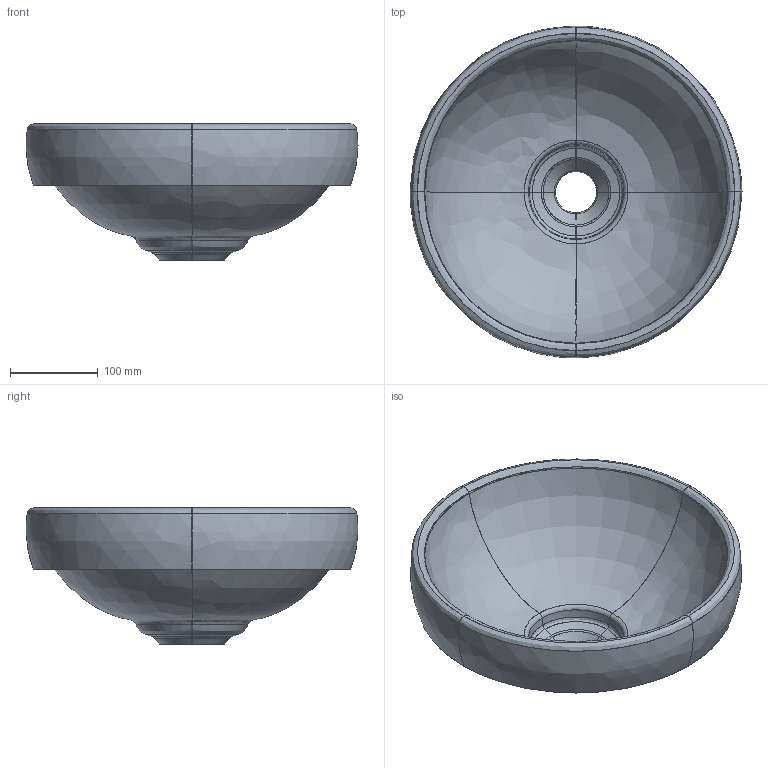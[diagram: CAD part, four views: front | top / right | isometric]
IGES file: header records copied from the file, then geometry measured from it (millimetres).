
Start section: START RECORD GO HERE.
Global section: file name: Catino D38 incasso.igs; native system: IBM CATIA IGES - CATIA Version 5 Release 17 ; preprocessor: CATIA Version 5 Release 17 ; author: Luca; organization: PC-Luca; date: 20121108.150607; units: millimetre
Bounding box: 378.65 x 378.65 x 155.3 mm (x, y, z)
Surface area: 373547.3 mm2 (no closed solid volume)
Topology: 0 solids, 0 shells, 100 faces, 400 edges, 400 vertices
Faces by surface type: bspline 100
